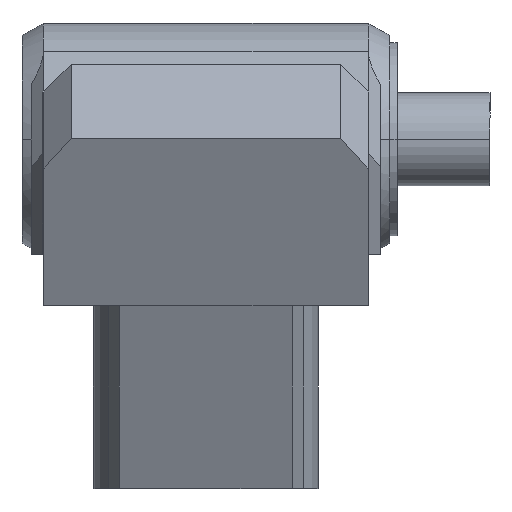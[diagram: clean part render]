
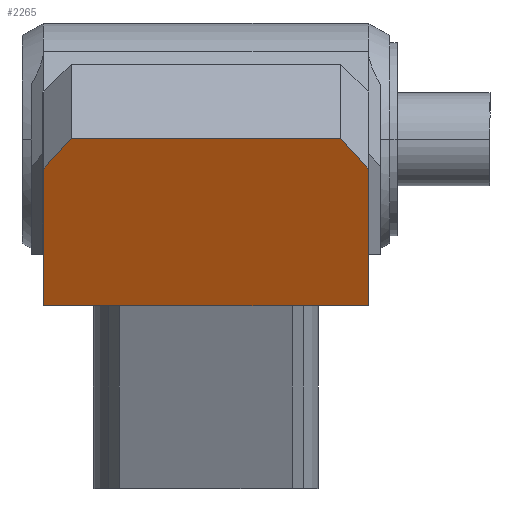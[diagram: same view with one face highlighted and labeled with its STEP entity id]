
A CAD part, left-side view. The second image highlights one B-rep face of the part: STEP entity #2265.
In plain terms, the highlighted planar face has unit normal (-0.906, 0, -0.423) as drawn and (-0.906, -0.423, 0) by its records, which use the part's own axes.
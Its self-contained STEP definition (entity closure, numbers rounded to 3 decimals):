
#157 = FACE_OUTER_BOUND ( 'NONE', #3292, .T. ) ;
#381 = LINE ( 'NONE', #508, #2336 ) ;
#508 = CARTESIAN_POINT ( 'NONE',  ( -245.512, 143.561, 87.5 ) ) ;
#665 = DIRECTION ( 'NONE',  ( -0.423, 0.906, 0. ) ) ;
#858 = VERTEX_POINT ( 'NONE', #4507 ) ;
#874 = CARTESIAN_POINT ( 'NONE',  ( -224.5, 98.5, 0. ) ) ;
#1093 = CARTESIAN_POINT ( 'NONE',  ( -250.842, 154.991, 102.896 ) ) ;
#1140 = LINE ( 'NONE', #1093, #3443 ) ;
#1146 = DIRECTION ( 'NONE',  ( 0.327, -0.701, -0.634 ) ) ;
#1246 = ORIENTED_EDGE ( 'NONE', *, *, #4456, .T. ) ;
#1430 = DIRECTION ( 'NONE',  ( 0., 0., -1. ) ) ;
#1446 = LINE ( 'NONE', #5459, #4105 ) ;
#1576 = VERTEX_POINT ( 'NONE', #2695 ) ;
#2153 = CARTESIAN_POINT ( 'NONE',  ( -287.097, 232.741, -32.623 ) ) ;
#2157 = EDGE_CURVE ( 'NONE', #5913, #3772, #381, .T. ) ;
#2216 = DIRECTION ( 'NONE',  ( 0., 0., -1. ) ) ;
#2230 = EDGE_CURVE ( 'NONE', #1576, #3082, #5304, .T. ) ;
#2265 = ADVANCED_FACE ( 'NONE', ( #157 ), #5889, .T. ) ;
#2269 = ORIENTED_EDGE ( 'NONE', *, *, #2230, .F. ) ;
#2271 = ORIENTED_EDGE ( 'NONE', *, *, #5447, .F. ) ;
#2336 = VECTOR ( 'NONE', #2412, 1000. ) ;
#2368 = EDGE_CURVE ( 'NONE', #5869, #858, #1446, .T. ) ;
#2412 = DIRECTION ( 'NONE',  ( -0.423, 0.906, 0. ) ) ;
#2456 = CARTESIAN_POINT ( 'NONE',  ( -245.512, 143.561, 87.5 ) ) ;
#2695 = CARTESIAN_POINT ( 'NONE',  ( -224.5, 98.5, -87.5 ) ) ;
#2790 = VECTOR ( 'NONE', #4934, 1000. ) ;
#2926 = ORIENTED_EDGE ( 'NONE', *, *, #3635, .T. ) ;
#2964 = ORIENTED_EDGE ( 'NONE', *, *, #2368, .T. ) ;
#3066 = DIRECTION ( 'NONE',  ( -0.906, -0.423, 0. ) ) ;
#3082 = VERTEX_POINT ( 'NONE', #4932 ) ;
#3292 = EDGE_LOOP ( 'NONE', ( #2964, #2926, #2269, #2271, #5708, #1246 ) ) ;
#3443 = VECTOR ( 'NONE', #5757, 1000. ) ;
#3530 = LINE ( 'NONE', #2153, #5165 ) ;
#3561 = CARTESIAN_POINT ( 'NONE',  ( -266.524, 188.621, 72.5 ) ) ;
#3635 = EDGE_CURVE ( 'NONE', #858, #3082, #3530, .T. ) ;
#3727 = LINE ( 'NONE', #874, #4315 ) ;
#3772 = VERTEX_POINT ( 'NONE', #5322 ) ;
#3950 = AXIS2_PLACEMENT_3D ( 'NONE', #2456, #3066, #665 ) ;
#4105 = VECTOR ( 'NONE', #2216, 1000. ) ;
#4315 = VECTOR ( 'NONE', #1430, 1000. ) ;
#4456 = EDGE_CURVE ( 'NONE', #3772, #5869, #1140, .T. ) ;
#4488 = CARTESIAN_POINT ( 'NONE',  ( -245.512, 143.561, -87.5 ) ) ;
#4507 = CARTESIAN_POINT ( 'NONE',  ( -266.524, 188.621, -72.5 ) ) ;
#4932 = CARTESIAN_POINT ( 'NONE',  ( -258.785, 172.025, -87.5 ) ) ;
#4934 = DIRECTION ( 'NONE',  ( -0.423, 0.906, 0. ) ) ;
#5165 = VECTOR ( 'NONE', #1146, 1000. ) ;
#5304 = LINE ( 'NONE', #4488, #2790 ) ;
#5322 = CARTESIAN_POINT ( 'NONE',  ( -258.785, 172.025, 87.5 ) ) ;
#5447 = EDGE_CURVE ( 'NONE', #5913, #1576, #3727, .T. ) ;
#5459 = CARTESIAN_POINT ( 'NONE',  ( -266.524, 188.621, 87.5 ) ) ;
#5530 = CARTESIAN_POINT ( 'NONE',  ( -224.5, 98.5, 87.5 ) ) ;
#5708 = ORIENTED_EDGE ( 'NONE', *, *, #2157, .T. ) ;
#5757 = DIRECTION ( 'NONE',  ( -0.327, 0.701, -0.634 ) ) ;
#5869 = VERTEX_POINT ( 'NONE', #3561 ) ;
#5889 = PLANE ( 'NONE',  #3950 ) ;
#5913 = VERTEX_POINT ( 'NONE', #5530 ) ;
